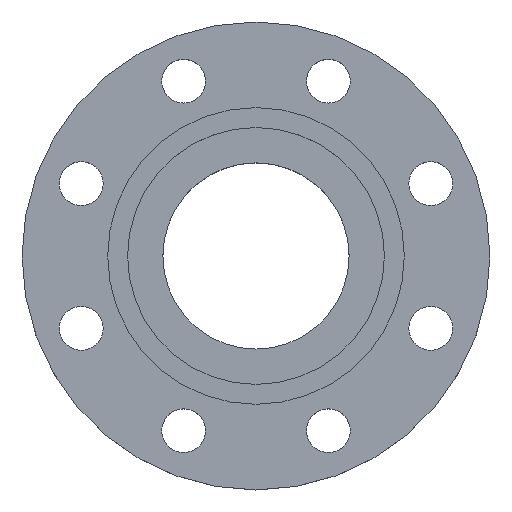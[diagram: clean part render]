
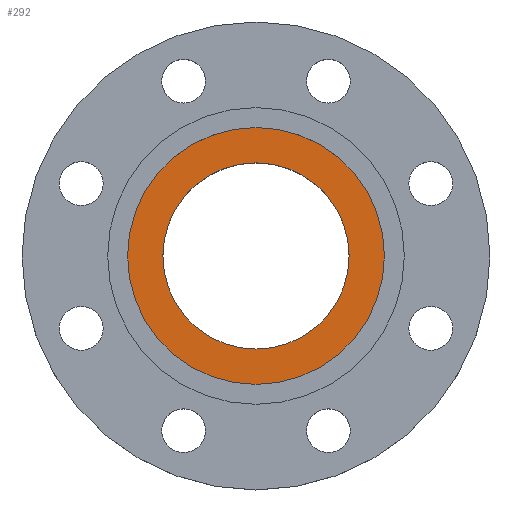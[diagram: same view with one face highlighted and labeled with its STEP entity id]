
A CAD part, top view. The second image highlights one B-rep face of the part: STEP entity #292.
In plain terms, the highlighted planar face has unit normal (0, 0, 1).
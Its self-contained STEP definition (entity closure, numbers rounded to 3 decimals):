
#64 = CARTESIAN_POINT ( 'NONE',  ( -64.5, 0., -5. ) ) ;
#94 = CIRCLE ( 'NONE', #412, 64.5 ) ;
#112 = CIRCLE ( 'NONE', #662, 46.753 ) ;
#136 = EDGE_CURVE ( 'NONE', #745, #897, #112, .T. ) ;
#158 = AXIS2_PLACEMENT_3D ( 'NONE', #381, #380, #378 ) ;
#169 = CIRCLE ( 'NONE', #158, 46.753 ) ;
#187 = EDGE_CURVE ( 'NONE', #1098, #599, #94, .T. ) ;
#245 = CARTESIAN_POINT ( 'NONE',  ( -46.753, 0., -5. ) ) ;
#254 = AXIS2_PLACEMENT_3D ( 'NONE', #653, #674, #684 ) ;
#270 = EDGE_CURVE ( 'NONE', #599, #1098, #352, .T. ) ;
#292 = ADVANCED_FACE ( 'NONE', ( #577, #657 ), #670, .T. ) ;
#342 = AXIS2_PLACEMENT_3D ( 'NONE', #845, #651, #860 ) ;
#352 = CIRCLE ( 'NONE', #342, 64.5 ) ;
#378 = DIRECTION ( 'NONE',  ( 1., 0., 0. ) ) ;
#380 = DIRECTION ( 'NONE',  ( 0., 0., 1. ) ) ;
#381 = CARTESIAN_POINT ( 'NONE',  ( 0., 0., -5. ) ) ;
#410 = CARTESIAN_POINT ( 'NONE',  ( 46.753, 0., -5. ) ) ;
#412 = AXIS2_PLACEMENT_3D ( 'NONE', #842, #849, #850 ) ;
#516 = CARTESIAN_POINT ( 'NONE',  ( 64.5, 0., -5. ) ) ;
#577 = FACE_BOUND ( 'NONE', #892, .T. ) ;
#599 = VERTEX_POINT ( 'NONE', #516 ) ;
#651 = DIRECTION ( 'NONE',  ( 0., 0., -1. ) ) ;
#653 = CARTESIAN_POINT ( 'NONE',  ( 64.5, 0., -5. ) ) ;
#657 = FACE_OUTER_BOUND ( 'NONE', #920, .T. ) ;
#662 = AXIS2_PLACEMENT_3D ( 'NONE', #814, #816, #819 ) ;
#670 = PLANE ( 'NONE',  #254 ) ;
#674 = DIRECTION ( 'NONE',  ( 0., 0., 1. ) ) ;
#684 = DIRECTION ( 'NONE',  ( 1., 0., 0. ) ) ;
#745 = VERTEX_POINT ( 'NONE', #410 ) ;
#805 = EDGE_CURVE ( 'NONE', #897, #745, #169, .T. ) ;
#814 = CARTESIAN_POINT ( 'NONE',  ( 0., 0., -5. ) ) ;
#816 = DIRECTION ( 'NONE',  ( 0., 0., 1. ) ) ;
#819 = DIRECTION ( 'NONE',  ( 1., 0., 0. ) ) ;
#842 = CARTESIAN_POINT ( 'NONE',  ( 0., 0., -5. ) ) ;
#845 = CARTESIAN_POINT ( 'NONE',  ( 0., 0., -5. ) ) ;
#849 = DIRECTION ( 'NONE',  ( 0., 0., -1. ) ) ;
#850 = DIRECTION ( 'NONE',  ( -1., 0., 0. ) ) ;
#860 = DIRECTION ( 'NONE',  ( -1., 0., 0. ) ) ;
#892 = EDGE_LOOP ( 'NONE', ( #1074, #1076 ) ) ;
#897 = VERTEX_POINT ( 'NONE', #245 ) ;
#920 = EDGE_LOOP ( 'NONE', ( #1077, #1078 ) ) ;
#1074 = ORIENTED_EDGE ( 'NONE', *, *, #136, .F. ) ;
#1076 = ORIENTED_EDGE ( 'NONE', *, *, #805, .F. ) ;
#1077 = ORIENTED_EDGE ( 'NONE', *, *, #187, .F. ) ;
#1078 = ORIENTED_EDGE ( 'NONE', *, *, #270, .F. ) ;
#1098 = VERTEX_POINT ( 'NONE', #64 ) ;
